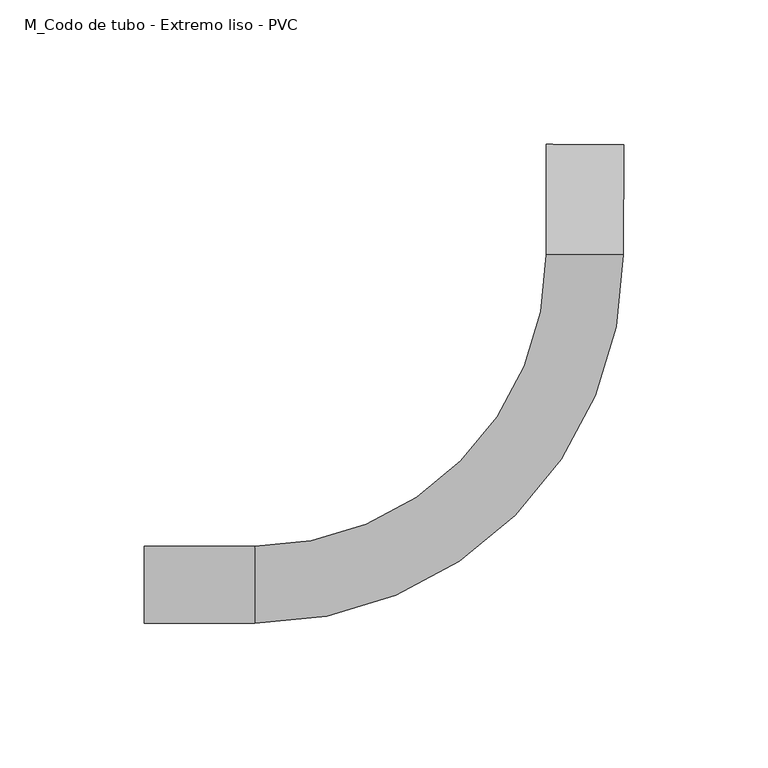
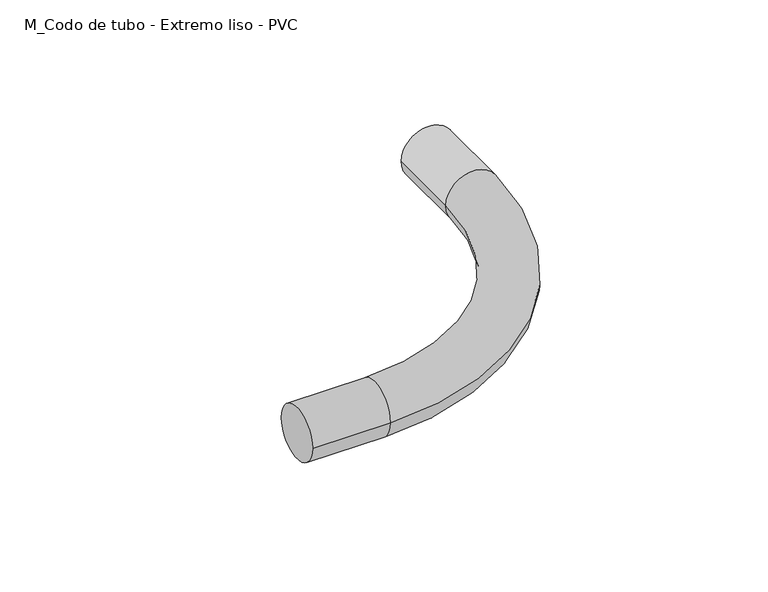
"""IFC4 building model written with IfcOpenShell, lengths in millimetres: cable carrier fitting geometry, M_Codo de tubo - Extremo liso - PVC : CODO ILUMINACION."""

from ifc_helpers import new_model, si_unit, point, frame, origin, place, context, project, spatial, circle_curve, ellipse_curve, trimmed, source, transform, mapped, element, save
from ifc_brep_helpers import plane_surface, cylinder_surface, revolved_surface, advanced_brep


def m_codo_de_tubo_extremo_liso_pvc_ae0e2309(model_context):
    return source(origin(), model_context, "Body", "AdvancedBrep", [
        advanced_brep(
        [(-152.3347451, -13.335, 0.0), (-152.3347451, 13.335, 0.0), (-114.2347451, -13.335, 0.0), (-114.2347451, 13.335, 0.0), (-13.2697616, 114.2423417, 0.0), (13.4002341, 114.2271113, 0.0), (13.4219919, 152.327105, 0.0), (-13.2480038, 152.3423355, 0.0)],
        [
            (0, 1, circle_curve(frame((-152.3347451, 0.0, 0.0), z_axis=(-1.0, 0.0, 0.0), x_axis=(0.0, 1.0, 0.0)), 13.335)),
            (1, 0, circle_curve(frame((-152.3347451, 0.0, 0.0), z_axis=(-1.0, 0.0, 0.0), x_axis=(0.0, 1.0, 0.0)), 13.335)),
            (0, 2),
            (2, 3, circle_curve(frame((-114.2347451, 0.0, 0.0), z_axis=(-1.0, 0.0, 0.0), x_axis=(0.0, 1.0, 0.0)), 13.335)),
            (3, 1),
            (3, 2, circle_curve(frame((-114.2347451, 0.0, 0.0), z_axis=(-1.0, 0.0, 0.0), x_axis=(0.0, 1.0, 0.0)), 13.335)),
            (4, 3, circle_curve(frame((-114.2347451, 114.3, 0.0), z_axis=(0.0, 0.0, -1.0), x_axis=(0.0, -1.0, 0.0)), 100.965)),
            (2, 5, circle_curve(frame((-114.2347451, 114.3, 0.0), z_axis=(0.0, 0.0, 1.0), x_axis=(0.0, -1.0, 0.0)), 127.635)),
            (5, 4, circle_curve(frame((0.0652362, 114.2347265, 0.0), z_axis=(-0.0005710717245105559, -0.9999998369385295, 0.0), x_axis=(-0.9999998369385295, 0.0005710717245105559, 0.0)), 13.335)),
            (4, 5, circle_curve(frame((0.0652362, 114.2347265, 0.0), z_axis=(-0.0005710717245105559, -0.9999998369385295, 0.0), x_axis=(-0.9999998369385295, 0.0005710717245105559, 0.0)), 13.335)),
            (6, 7, circle_curve(frame((0.0869941, 152.3347203, 0.0), z_axis=(0.0005710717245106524, 0.9999998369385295, 0.0), x_axis=(-0.9999998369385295, 0.0005710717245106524, 0.0)), 13.335)),
            (7, 6, circle_curve(frame((0.0869941, 152.3347203, 0.0), z_axis=(0.0005710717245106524, 0.9999998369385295, 0.0), x_axis=(-0.9999998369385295, 0.0005710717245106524, 0.0)), 13.335)),
            (5, 6),
            (7, 4),
        ],
        [
            plane_surface(frame((-152.3347451, 0.0, 0.0), z_axis=(-1.0, 0.0, 0.0), x_axis=(0.0, 0.0, 1.0))),
            cylinder_surface(frame((-152.3347451, 0.0, 0.0), z_axis=(-1.0, 0.0, 0.0), x_axis=(0.0, 1.0, 0.0)), 13.335),
            revolved_surface(trimmed(ellipse_curve(frame((-114.2347451, 0.0, 0.0), z_axis=(-1.0, 0.0, 0.0), x_axis=(0.0, 1.0, 0.0)), 13.335, 13.335), [point((-114.2347451, -13.335, 0.0))], [point((-114.2347451, 13.335, 0.0))], True, "CARTESIAN"), (-114.2347451, 114.3, 0.0), (0.0, 0.0, 1.0)),
            revolved_surface(trimmed(ellipse_curve(frame((-114.2347451, 0.0, 0.0), z_axis=(-1.0, 0.0, 0.0), x_axis=(0.0, 1.0, 0.0)), 13.335, 13.335), [point((-114.2347451, 13.335, 0.0))], [point((-114.2347451, -13.335, 0.0))], True, "CARTESIAN"), (-114.2347451, 114.3, 0.0), (0.0, 0.0, 1.0)),
            plane_surface(frame((0.0869941, 152.3347203, 0.0), z_axis=(0.0005710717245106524, 0.9999998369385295, 0.0), x_axis=(0.0, 0.0, 1.0))),
            cylinder_surface(frame((0.0652362, 114.2347265, 0.0), z_axis=(-0.0005710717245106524, -0.9999998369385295, 0.0), x_axis=(-0.9999998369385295, 0.0005710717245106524, 0.0)), 13.335),
        ],
        [
            (0, [[1, 2]]),
            (1, [[-1, 3, 4, 5]]),
            (1, [[-2, -5, 6, -3]]),
            (2, [[7, -4, 8, 9]]),
            (3, [[-8, -6, -7, 10]]),
            (4, [[11, 12]]),
            (5, [[-9, 13, -12, 14]]),
            (5, [[-10, -14, -11, -13]]),
        ],
    ),
    ])


if __name__ == "__main__":
    model = new_model("IFC4")
    model_context = context("Model", 3, world=origin())
    ifc_project = project(units=[si_unit("LENGTHUNIT", "METRE", prefix="MILLI")], contexts=[model_context])
    site = spatial("IfcSite", under=ifc_project)
    building = spatial("IfcBuilding", under=site)
    placement = place(None, origin())
    m_codo_de_tubo_extremo_liso_pvc_shape = m_codo_de_tubo_extremo_liso_pvc_ae0e2309(model_context)
    element("IfcCableCarrierFitting", 1, ObjectType="M_Codo de tubo - Extremo liso - PVC : CODO ILUMINACION", at=placement, inside=building, context=model_context, shape_type="MappedRepresentation", body=[
        mapped(m_codo_de_tubo_extremo_liso_pvc_shape, transform((0.0, 0.0, 0.0), x_axis=(1.0, 0.0, 0.0), y_axis=(0.0, 1.0, 0.0), z_axis=(0.0, 0.0, 1.0))),
    ])
    save(model, "model.ifc")
